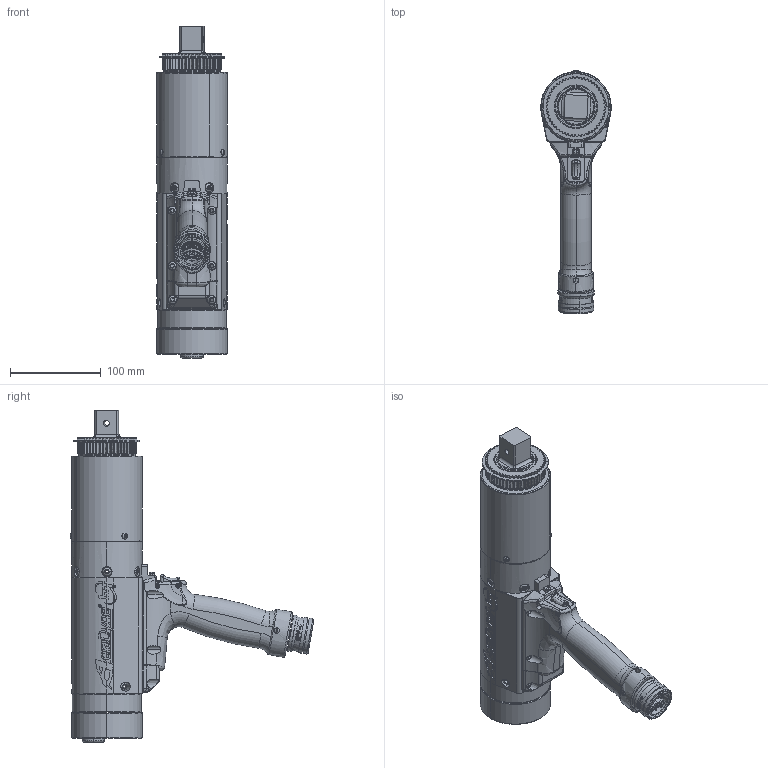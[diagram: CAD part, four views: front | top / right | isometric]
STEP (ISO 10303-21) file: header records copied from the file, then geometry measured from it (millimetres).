
FILE_DESCRIPTION (( 'STEP AP214' ), '1' );
FILE_NAME ('AEP4B771000BDL.STEP', '2022-07-23T00:11:53', ( '' ), ( '' ), 'SwSTEP 2.0', 'SolidWorks 2022', '' );
FILE_SCHEMA (( 'AUTOMOTIVE_DESIGN' ));
Length unit declared in the file: inch
Products named in the file (1): AEP4B771000BDL
Bounding box: 77.47 x 268.69 x 366.05 mm (x, y, z)
Surface area: 183446.3 mm2 (no closed solid volume)
Topology: 0 solids, 84 shells, 1312 faces, 4985 edges, 3560 vertices
Faces by surface type: cylinder 440, plane 353, bspline 214, torus 148, cone 144, sphere 13
Entity records: 126170 total; most frequent: CARTESIAN_POINT 71551, ORIENTED_EDGE 7761, DIRECTION 6808, EDGE_CURVE 4981, VERTEX_POINT 3560, AXIS2_PLACEMENT_3D 2545, LINE 1718, VECTOR 1718
